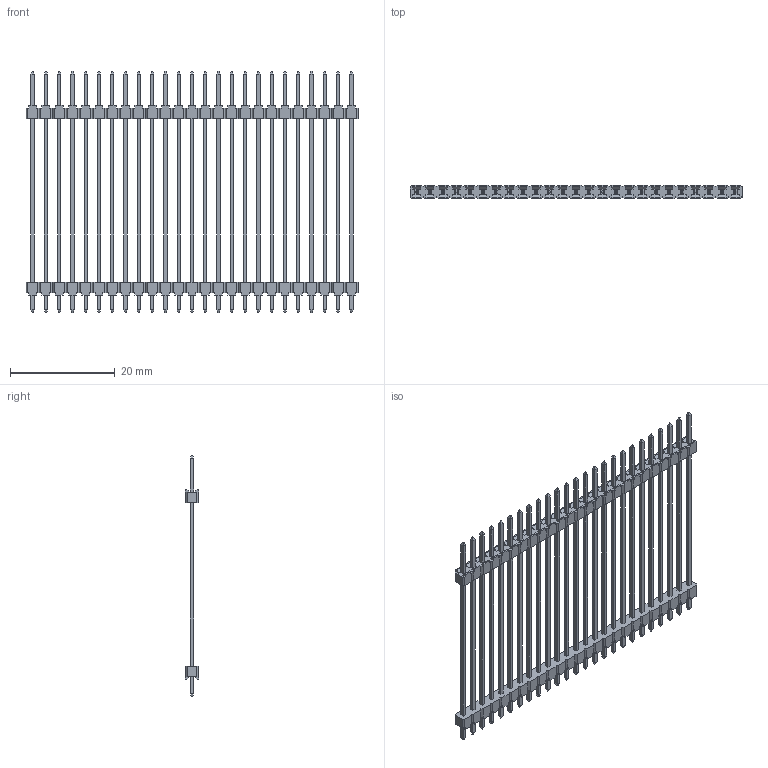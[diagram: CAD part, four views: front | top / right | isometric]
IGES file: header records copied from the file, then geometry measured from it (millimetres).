
Global section: file name: N:\GOLF_VI_2_54mm_UGII\9614XX-X04XX04-XX (TS-2185)\961425-9041704-XX.igs; native system: NX V3.0; preprocessor: UGS NX IGES V4.0; date: 20070618.105910; units: millimetre
Bounding box: 63.5 x 2.5 x 46.1 mm (x, y, z)
Surface area: 3963.7 mm2 (no closed solid volume)
Topology: 0 solids, 0 shells, 1362 faces, 7449 edges, 7449 vertices
Faces by surface type: bspline 1362
